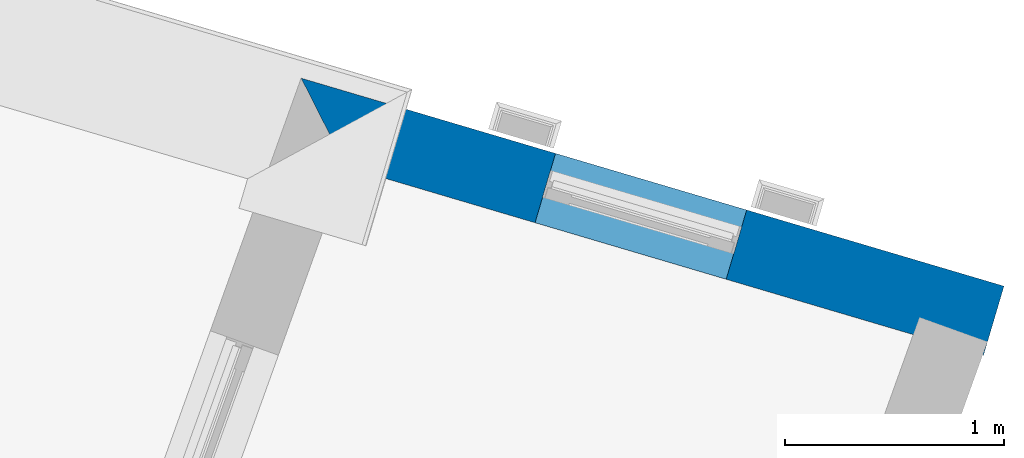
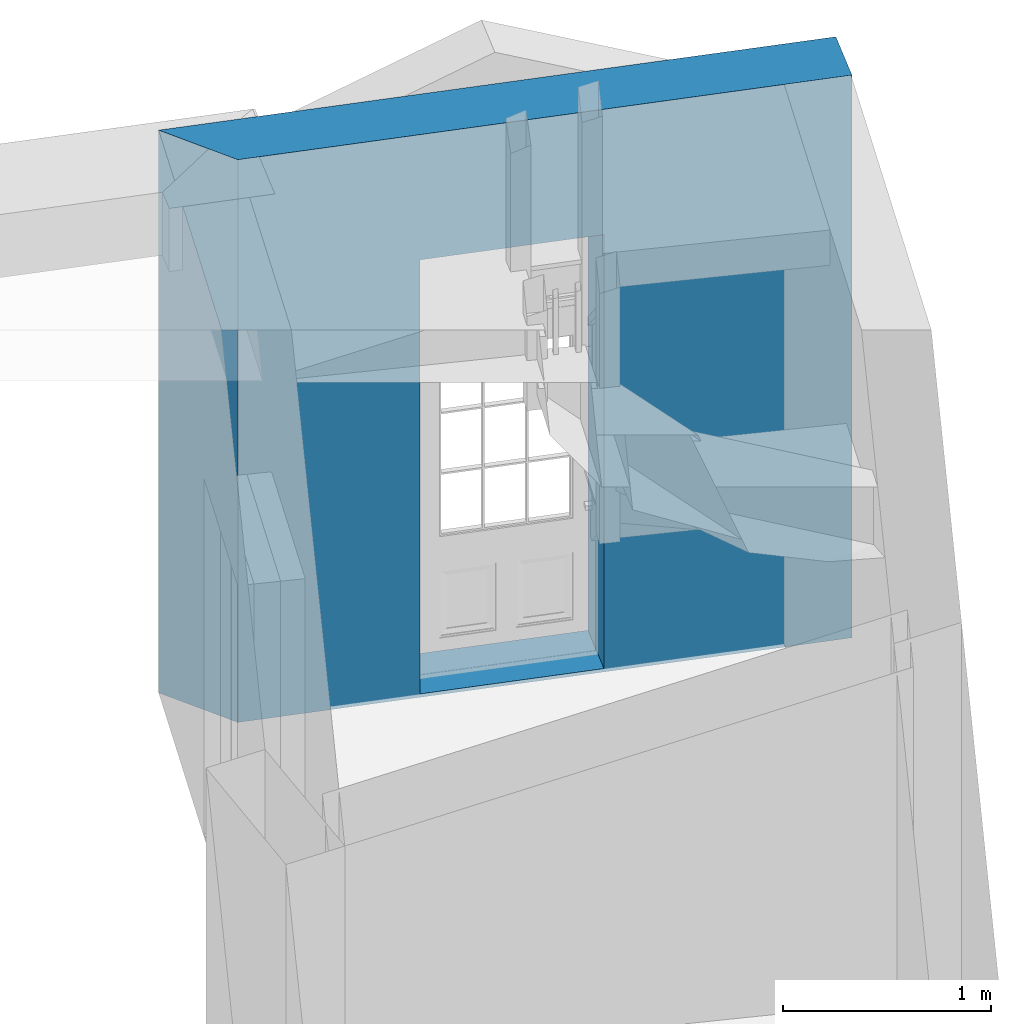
# One storey, part 3 of 4: 1 wall, 1 opening.
"""IFC4 building model written with IfcOpenShell, lengths in metres."""

from ifc_helpers import new_model, si_unit, frame, origin_with_axes, place, context, subcontext, project, spatial, polyline, outline, extrude, material, layer, layer_set, layer_usage, type_object, element, save


model = new_model("IFC4")

# Units and contexts
model_context = context("Model", 3, world=origin_with_axes())
body_context = subcontext(model_context, "Body", "Model", "MODEL_VIEW")
ifc_project = project(units=[si_unit("PLANEANGLEUNIT", "RADIAN"), si_unit("MASSUNIT", "GRAM", prefix="KILO"), si_unit("FORCEUNIT", "NEWTON", prefix="KILO"), si_unit("LENGTHUNIT", "METRE"), si_unit("AREAUNIT", "SQUARE_METRE"), si_unit("VOLUMEUNIT", "CUBIC_METRE")], contexts=[model_context, model_context])

# Sites, building, storey
site_1_placement = place(None, origin_with_axes())
site_1 = spatial("IfcSite", under=ifc_project, at=site_1_placement, Name="Tamar")
site_2_placement = place(site_1_placement, origin_with_axes())
site_2 = spatial("IfcSite", under=site_1, at=site_2_placement, Name="Site plot-24", CompositionType="ELEMENT")
building_placement = place(None, origin_with_axes())
building = spatial("IfcBuilding", under=site_2, at=building_placement, Name="Building plot-24", CompositionType="ELEMENT")
storey_placement = place(None, frame((0.0, 0.0, 26.0), z_axis=(0.0, 0.0, 1.0), x_axis=(1.0, 0.0, 0.0)))
storey = spatial("IfcBuildingStorey", under=building, at=storey_placement, Name="plot-24 0", CompositionType="ELEMENT", Elevation=26.0)

# Wall, opening
ifc_material = material(Name="Masonry")
ifc_layer = layer(ifc_material, 0.33, ventilated=False)
ifc_layer_set = layer_set([ifc_layer], Name="exterior_0.08_0.25")
ifc_layer_usage = layer_usage(ifc_layer_set, "AXIS2", "POSITIVE", -0.25)
wall_type = type_object("IfcWallType", Name="exterior_0.08_0.25", PredefinedType="SOLIDWALL", material=ifc_layer_set)
wall_placement = place(storey_placement, frame((276.213329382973, 278.988640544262, 0.0), z_axis=(0.0, 0.0, 1.0), x_axis=(-0.958899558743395, 0.283745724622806, 0.0)))
wall = element("IfcWall", 1, at=wall_placement, inside=storey, type_object=wall_type, material=ifc_layer_usage, Name="exterior", context=body_context, shape_type="SweptSolid", body=[
    extrude(outline(polyline([(-0.250000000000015, 0.0800000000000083), (-0.250000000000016, -0.250000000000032), (3.09591766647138, -0.250000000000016), (2.78429467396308, 0.0800000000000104), (-0.250000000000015, 0.0800000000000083)])), origin_with_axes(), (0.0, 0.0, 1.0), 3.3),
])
opening_placement = place(wall_placement, frame((0.974919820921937, 0.0, 0.0199999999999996)))
element("IfcOpeningElement", 2, at=opening_placement, cuts=wall, Name="My Opening", ObjectType="Opening", context=body_context, shape_type="SweptSolid", body=[
    extrude(outline(polyline([(0.0, -0.270000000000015), (0.910000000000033, -0.269999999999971), (0.910000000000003, 1.09999999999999), (-3.03090885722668e-14, 1.09999999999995), (0.0, -0.270000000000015)])), origin_with_axes(), (0.0, 0.0, 1.0), 2.545),
])

save(model, "model.ifc")
